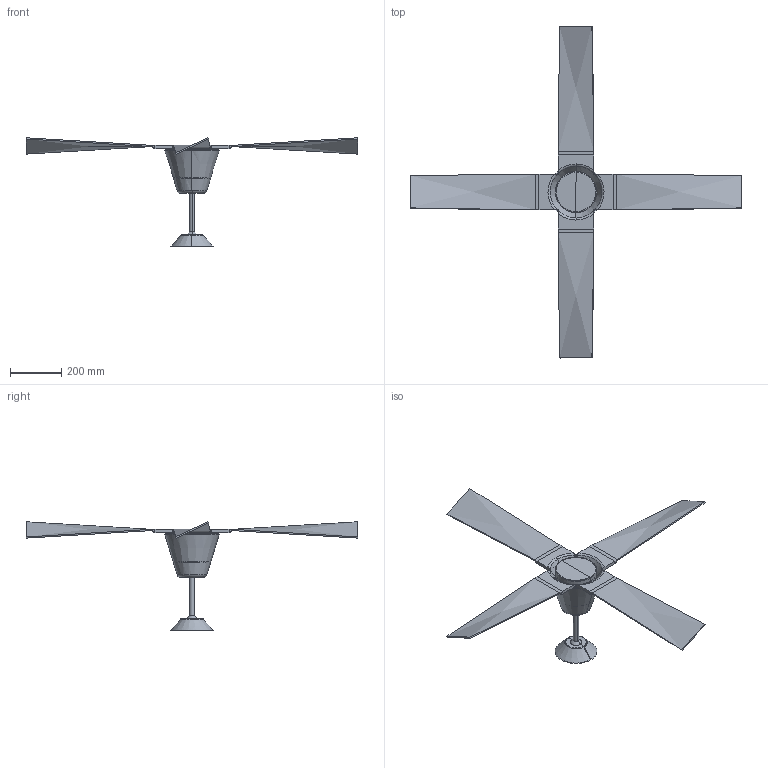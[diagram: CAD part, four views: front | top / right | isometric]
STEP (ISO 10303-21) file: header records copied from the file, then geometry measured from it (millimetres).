
FILE_DESCRIPTION(/* description */ (''),/* implementation_level */ '2;1');
FILE_NAME(/* name */ '34105.step',/* time_stamp */ '2024-04-08T17:22:19+02:00',/* author */ ('RenataManzini'),/* organization */ (''),/* preprocessor_version */ 'ST-DEVELOPER v20',/* originating_system */ 'AutoCAD Mechanical',/* authorisation */ '');
FILE_SCHEMA (('AUTOMOTIVE_DESIGN { 1 0 10303 214 3 1 1 }'));
Length unit declared in the file: millimetre
Products named in the file (2): Product; TYPHOON_L - FAN-467641-_3D_
Assembly tree (1 placements, depth 2):
  Product
    TYPHOON_L - FAN-467641-_3D_
Bounding box: 1300 x 1300 x 424.35 mm (x, y, z)
Volume: 3680342.3 mm3; surface area: 1163493.6 mm2
Topology: 18 solids, 18 shells, 248 faces, 578 edges, 364 vertices
Faces by surface type: plane 122, torus 44, cylinder 40, cone 24, bspline 18
Entity records: 9387 total; most frequent: CARTESIAN_POINT 4047, ORIENTED_EDGE 1156, DIRECTION 938, EDGE_CURVE 578, VERTEX_POINT 364, AXIS2_PLACEMENT_3D 321, LINE 296, VECTOR 296
